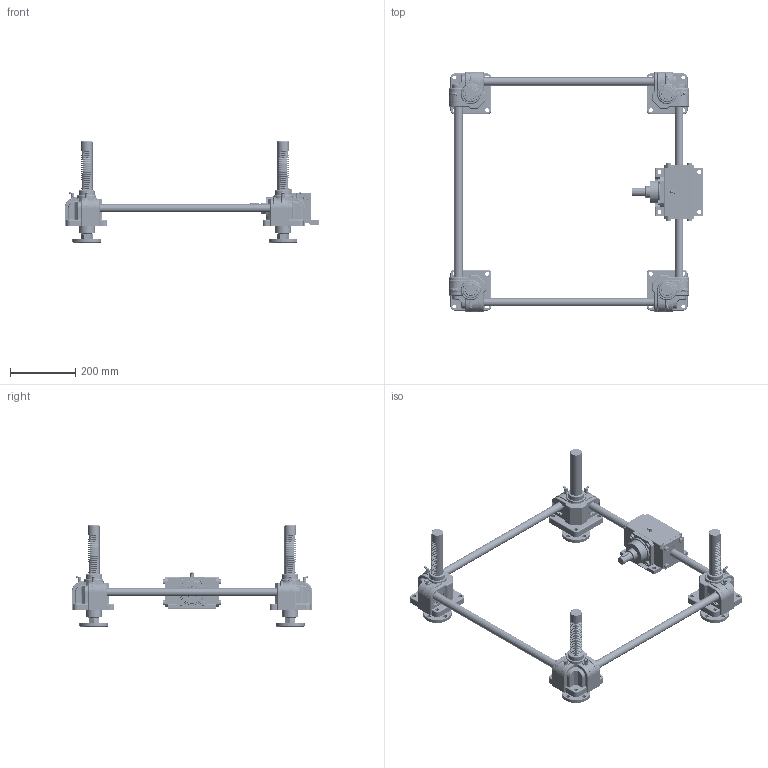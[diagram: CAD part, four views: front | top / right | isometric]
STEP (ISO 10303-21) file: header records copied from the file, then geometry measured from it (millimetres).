
FILE_DESCRIPTION(('STEP AP203'),'1');
FILE_NAME('SPB1500FU-600x600-300-150ST.stp','2022-06-15T08:16:01',(' '),(' '),'Spatial InterOp 3D',' ',' ');
FILE_SCHEMA(('CONFIG_CONTROL_DESIGN'));
Length unit declared in the file: millimetre
Products named in the file (100): SPB1500FU-600x600-300-150ST; ASSEM1; Flange.1-Part; Flange.1; Joint.1; Nut.1; Flange.2-Part; Flange.2; Joint.2; Nut.2; Flange.3-Part; Flange.3; Joint.3; Nut.3; Flange.4-Part; Flange.4; Joint.4; Nut.4; Body.1-Part; SnapRing-55Pie; b6205zz; Nipple; Gear Box.1(NSP-1500); RJ05-4SCJ-610X600-100ST_CAP; LABEL-B.1; ___; 파트18; __ ; Body.2-Part; Gear Box.2(NSP-1500); Body.3-Part; Gear Box.3(NSP-1500); Body.4-Part; Gear Box.4(NSP-1500); Bevel Part(BG05); Bolt-BevelBox.12; Input Shaft(BG05); BevelBoxCover3(BG05); Body_stand by; BevelBoxCover2(BG05)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
Assembly tree (101 placements, depth 6):
  SPB1500FU-600x600-300-150ST
    ASSEM1
    (unnamed)
    (unnamed)
    (unnamed)
    Flange.1-Part
      Flange.1
      Joint.1
      Nut.1
    Flange.2-Part
      Flange.2
      Joint.2
      Nut.2
    Flange.3-Part
      Flange.3
      Joint.3
      Nut.3
    Flange.4-Part
      Flange.4
      Joint.4
      Nut.4
    Body.1-Part
      SnapRing-55Pie
      SnapRing-55Pie
      b6205zz
      b6205zz
      Nipple
      Nipple
      Gear Box.1(NSP-1500)
      __ 
        ___
          RJ05-4SCJ-610X600-100ST_CAP
            LABEL-B.1
          파트18
    Body.2-Part
      Nipple
      Nipple
      SnapRing-55Pie
      SnapRing-55Pie
      b6205zz
      b6205zz
      Gear Box.2(NSP-1500)
      __ 
        ___
          RJ05-4SCJ-610X600-100ST_CAP
            LABEL-B.1
          파트18
    Body.3-Part
      Nipple
      Nipple
      SnapRing-55Pie
      SnapRing-55Pie
      b6205zz
      b6205zz
      Gear Box.3(NSP-1500)
      __ 
        ___
          RJ05-4SCJ-610X600-100ST_CAP
            LABEL-B.1
          파트18
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Bounding box: 778.41 x 735.32 x 310 mm (x, y, z)
Volume: 5252787.8 mm3; surface area: 1310952.3 mm2
Topology: 109 solids, 112 shells, 13057 faces, 36350 edges, 23644 vertices
Faces by surface type: plane 10053, cylinder 1806, torus 432, bspline 224, revolution 189, extrusion 171, cone 94, sphere 88
Full cylindrical faces by diameter (mm): 3.087 x16, 4.8 x9, 6 x1, 8 x31, 9.5 x12, 9.886 x9, 10 x8, 12 x36, 15 x11, 25 x29, 26 x2, 27 x4, 28 x8, 32.5 x16, 35 x5, 36 x4, 37 x5, 38 x4, 39 x12, 39.4 x4, 40 x1, 41 x8, 42 x1, 44 x4, 45 x5, 46.1 x16, 48 x4, 50 x12, 52 x26, 52.4 x1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
Entity records: 441131 total; most frequent: CARTESIAN_POINT 111153, ORIENTED_EDGE 69982, DIRECTION 61315, EDGE_CURVE 35000, VECTOR 29028, LINE 28857, VERTEX_POINT 23161, AXIS2_PLACEMENT_3D 16049
